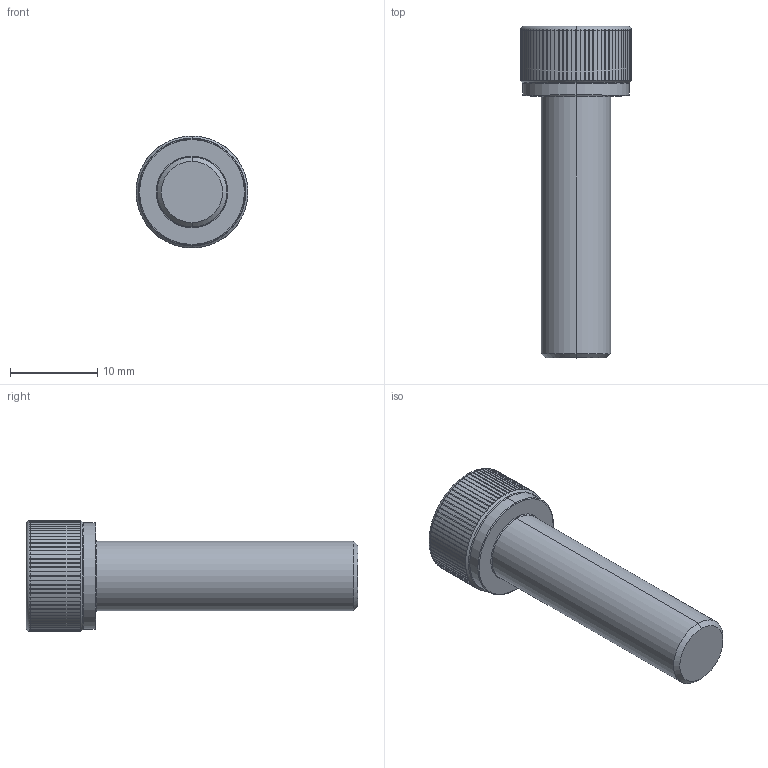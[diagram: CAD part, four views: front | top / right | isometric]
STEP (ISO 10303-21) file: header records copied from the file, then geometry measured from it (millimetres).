
FILE_DESCRIPTION (( 'STEP AP203' ), '1' );
FILE_NAME ('LGDT-304-M8x30.STEP', '2026-08-10T06:42:54', ( '' ), ( '' ), 'SwSTEP 2.0', 'SolidWorks 2020', '' );
FILE_SCHEMA (( 'CONFIG_CONTROL_DESIGN' ));
Length unit declared in the file: millimetre
Products named in the file (1): LGDT-304-M8x30
Bounding box: 12.8 x 38 x 12.8 mm (x, y, z)
Volume: 2356.4 mm3; surface area: 1407.5 mm2
Topology: 1 solids, 1 shells, 204 faces, 576 edges, 376 vertices
Faces by surface type: cylinder 175, cone 11, plane 10, torus 8
Entity records: 8367 total; most frequent: CARTESIAN_POINT 3208, ORIENTED_EDGE 1152, DIRECTION 988, EDGE_CURVE 576, AXIS2_PLACEMENT_3D 398, VERTEX_POINT 376, EDGE_LOOP 206, ADVANCED_FACE 204
